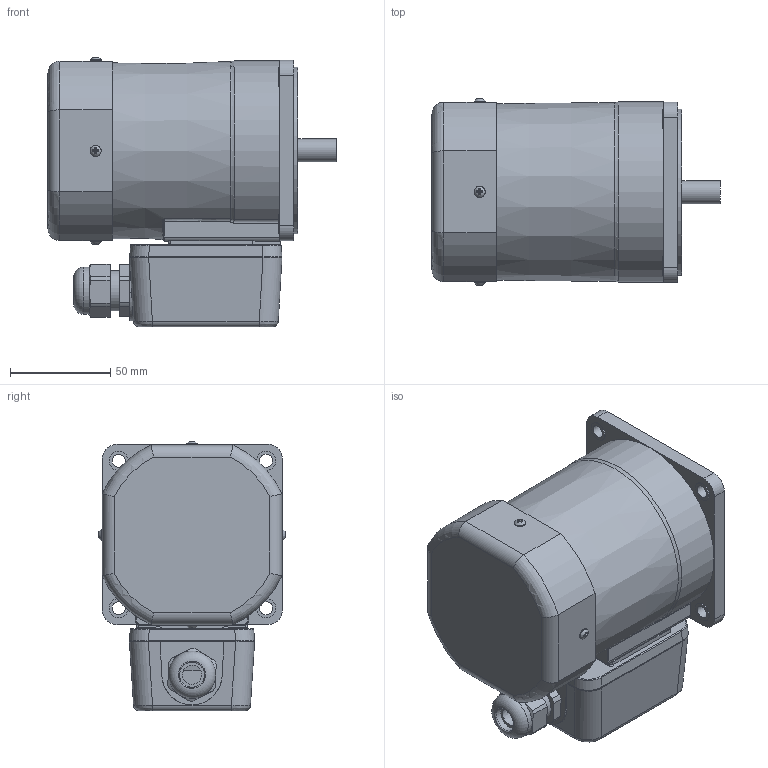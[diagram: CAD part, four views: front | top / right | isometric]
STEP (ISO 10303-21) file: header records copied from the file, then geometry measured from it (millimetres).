
FILE_DESCRIPTION((''),'2;1');
FILE_NAME('D:\김성묵\업무폴더\개발 파일\프로젝트 개발 AB등급\AC표준형 개발자료\90각 이하 표준형 개발\도면작성 자료\3D 도면\홈페이지용 3D 파일\60W MOTOR\T BOX TYPE\S9(I,R)60G-T.stp','2015-03-26T18:23:33',('smkim'),(''),'Autodesk Inventor 2012','Autodesk Inventor 2012','');
FILE_SCHEMA(('AUTOMOTIVE_DESIGN { 1 0 10303 214 1 1 1 1 }'));
Length unit declared in the file: millimetre
Products named in the file (7): S9(I,R)60G-T; S9I60GㅁTCE; S9_60_HOUSING A_접지 삭제ipt; FAN COVER; 552300620; 25W_T_BOX
Assembly tree (9 placements, depth 3):
  S9(I,R)60G-T
    S9I60GㅁTCE
    S9_60_HOUSING A_접지 삭제ipt
    FAN COVER
      FAN COVER
      552300620  x4
    25W_T_BOX
Bounding box: 143.8 x 93.49 x 134.55 mm (x, y, z)
Volume: 1084739.9 mm3; surface area: 113378.9 mm2
Topology: 8 solids, 15 shells, 494 faces, 1183 edges, 754 vertices
Faces by surface type: plane 262, cylinder 134, bspline 53, torus 33, cone 12
Full cylindrical faces by diameter (mm): 2.55 x2, 3 x8, 3.5 x4, 5.6 x8, 6.3 x4, 6.5 x4, 7 x1, 9 x1, 9.5 x4, 11.5 x1, 12.5 x1, 15 x1, 20 x2, 21 x1, 23.6 x1, 40 x1, 83 x1, 86 x1
Entity records: 14570 total; most frequent: CARTESIAN_POINT 4573, DIRECTION 1900, ORIENTED_EDGE 1898, EDGE_CURVE 949, AXIS2_PLACEMENT_3D 704, VERTEX_POINT 644, EDGE_LOOP 543, VECTOR 492
